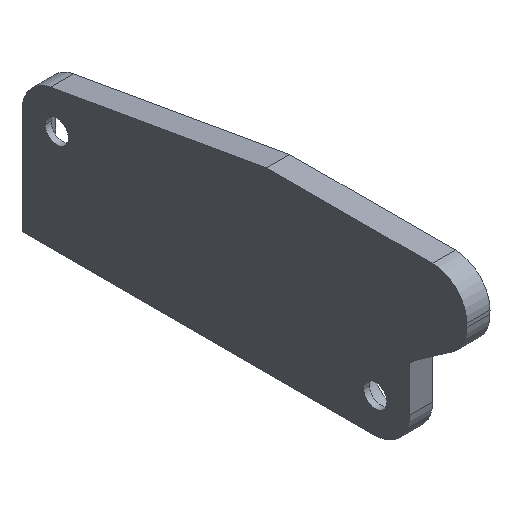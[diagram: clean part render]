
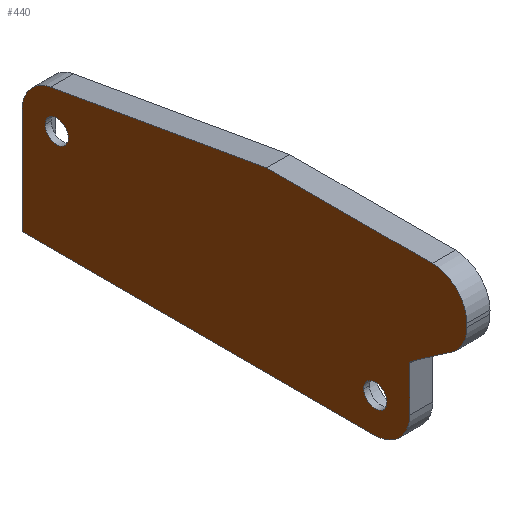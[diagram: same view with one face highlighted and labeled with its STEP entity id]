
A CAD part, isometric view. The second image highlights one B-rep face of the part: STEP entity #440.
In plain terms, the highlighted planar face has unit normal (-1, 0, 0).
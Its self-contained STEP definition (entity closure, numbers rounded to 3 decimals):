
#30 = EDGE_CURVE ( 'NONE', #661, #872, #615, .T. ) ;
#39 = DIRECTION ( 'NONE',  ( 0., -1., 0. ) ) ;
#47 = EDGE_CURVE ( 'NONE', #269, #873, #776, .T. ) ;
#53 = AXIS2_PLACEMENT_3D ( 'NONE', #504, #237, #691 ) ;
#67 = CARTESIAN_POINT ( 'NONE',  ( 0., 68., 33.2 ) ) ;
#74 = VECTOR ( 'NONE', #134, 1000. ) ;
#80 = AXIS2_PLACEMENT_3D ( 'NONE', #616, #90, #694 ) ;
#85 = ORIENTED_EDGE ( 'NONE', *, *, #746, .F. ) ;
#90 = DIRECTION ( 'NONE',  ( -1., 0., 0. ) ) ;
#91 = ORIENTED_EDGE ( 'NONE', *, *, #642, .F. ) ;
#105 = EDGE_CURVE ( 'NONE', #873, #627, #833, .T. ) ;
#112 = CARTESIAN_POINT ( 'NONE',  ( 0., 68., 10. ) ) ;
#113 = CARTESIAN_POINT ( 'NONE',  ( 0., 7., 16. ) ) ;
#121 = DIRECTION ( 'NONE',  ( 0., 1., 0. ) ) ;
#122 = DIRECTION ( 'NONE',  ( 1., 0., 0. ) ) ;
#134 = DIRECTION ( 'NONE',  ( 0., -1., 0. ) ) ;
#140 = CARTESIAN_POINT ( 'NONE',  ( 0., -2.8, 40.65 ) ) ;
#145 = CIRCLE ( 'NONE', #187, 6. ) ;
#162 = DIRECTION ( 'NONE',  ( 1., 0., 0. ) ) ;
#167 = VECTOR ( 'NONE', #121, 1000. ) ;
#177 = DIRECTION ( 'NONE',  ( 0., -1., 0. ) ) ;
#183 = DIRECTION ( 'NONE',  ( 0., 0., -1. ) ) ;
#187 = AXIS2_PLACEMENT_3D ( 'NONE', #707, #162, #177 ) ;
#191 = CIRCLE ( 'NONE', #309, 2. ) ;
#202 = CARTESIAN_POINT ( 'NONE',  ( 0., 5., 16. ) ) ;
#205 = CARTESIAN_POINT ( 'NONE',  ( 0., -6.241, 29.127 ) ) ;
#210 = CARTESIAN_POINT ( 'NONE',  ( 0., 64., 28. ) ) ;
#219 = ORIENTED_EDGE ( 'NONE', *, *, #591, .F. ) ;
#221 = VECTOR ( 'NONE', #750, 1000. ) ;
#224 = FACE_BOUND ( 'NONE', #288, .T. ) ;
#230 = VERTEX_POINT ( 'NONE', #478 ) ;
#231 = EDGE_CURVE ( 'NONE', #557, #846, #689, .T. ) ;
#237 = DIRECTION ( 'NONE',  ( 1., 0., 0. ) ) ;
#240 = CARTESIAN_POINT ( 'NONE',  ( 0., -8.8, 34.65 ) ) ;
#249 = EDGE_CURVE ( 'NONE', #562, #269, #544, .T. ) ;
#250 = DIRECTION ( 'NONE',  ( -1., 0., 0. ) ) ;
#252 = EDGE_CURVE ( 'NONE', #471, #562, #712, .T. ) ;
#253 = VECTOR ( 'NONE', #183, 1000. ) ;
#259 = VERTEX_POINT ( 'NONE', #210 ) ;
#262 = VERTEX_POINT ( 'NONE', #140 ) ;
#265 = VERTEX_POINT ( 'NONE', #618 ) ;
#266 = CARTESIAN_POINT ( 'NONE',  ( 0., -8.8, 34.041 ) ) ;
#269 = VERTEX_POINT ( 'NONE', #341 ) ;
#273 = DIRECTION ( 'NONE',  ( 1., 0., 0. ) ) ;
#278 = EDGE_CURVE ( 'NONE', #265, #259, #346, .T. ) ;
#281 = CARTESIAN_POINT ( 'NONE',  ( 0., 7., 16. ) ) ;
#288 = EDGE_LOOP ( 'NONE', ( #665, #812 ) ) ;
#301 = CARTESIAN_POINT ( 'NONE',  ( 0., 7.08, 16. ) ) ;
#303 = AXIS2_PLACEMENT_3D ( 'NONE', #664, #122, #594 ) ;
#305 = VECTOR ( 'NONE', #684, 1000. ) ;
#309 = AXIS2_PLACEMENT_3D ( 'NONE', #281, #630, #834 ) ;
#312 = DIRECTION ( 'NONE',  ( -1., 0., 0. ) ) ;
#314 = CARTESIAN_POINT ( 'NONE',  ( 0., 7.08, 10. ) ) ;
#316 = EDGE_CURVE ( 'NONE', #700, #548, #191, .T. ) ;
#323 = ORIENTED_EDGE ( 'NONE', *, *, #396, .F. ) ;
#324 = CARTESIAN_POINT ( 'NONE',  ( 0., 68., 40.65 ) ) ;
#326 = ORIENTED_EDGE ( 'NONE', *, *, #316, .F. ) ;
#328 = EDGE_LOOP ( 'NONE', ( #798, #608, #323, #336, #870, #426, #493, #91, #841, #460, #556, #85 ) ) ;
#335 = LINE ( 'NONE', #529, #454 ) ;
#336 = ORIENTED_EDGE ( 'NONE', *, *, #105, .F. ) ;
#341 = CARTESIAN_POINT ( 'NONE',  ( 0., 0.867, 24.149 ) ) ;
#342 = CIRCLE ( 'NONE', #883, 6. ) ;
#346 = CIRCLE ( 'NONE', #80, 2. ) ;
#388 = LINE ( 'NONE', #324, #74 ) ;
#389 = DIRECTION ( 'NONE',  ( 0., -1., 0. ) ) ;
#396 = EDGE_CURVE ( 'NONE', #627, #661, #342, .T. ) ;
#398 = DIRECTION ( 'NONE',  ( -1., 0., 0. ) ) ;
#411 = CARTESIAN_POINT ( 'NONE',  ( 0., 1.08, 10. ) ) ;
#413 = EDGE_CURVE ( 'NONE', #262, #869, #145, .T. ) ;
#425 = CARTESIAN_POINT ( 'NONE',  ( 0., -2.8, 34.041 ) ) ;
#426 = ORIENTED_EDGE ( 'NONE', *, *, #249, .F. ) ;
#431 = FACE_BOUND ( 'NONE', #734, .T. ) ;
#440 = ADVANCED_FACE ( 'NONE', ( #224, #431, #699 ), #799, .F. ) ;
#442 = CARTESIAN_POINT ( 'NONE',  ( 0., 1.08, 23.74 ) ) ;
#451 = CARTESIAN_POINT ( 'NONE',  ( 0., 62., 28. ) ) ;
#452 = EDGE_CURVE ( 'NONE', #872, #230, #335, .T. ) ;
#453 = AXIS2_PLACEMENT_3D ( 'NONE', #451, #250, #39 ) ;
#454 = VECTOR ( 'NONE', #463, 1000. ) ;
#455 = LINE ( 'NONE', #518, #253 ) ;
#459 = CARTESIAN_POINT ( 'NONE',  ( 0., 0.58, 23.74 ) ) ;
#460 = ORIENTED_EDGE ( 'NONE', *, *, #472, .F. ) ;
#463 = DIRECTION ( 'NONE',  ( 0., 0., 1. ) ) ;
#471 = VERTEX_POINT ( 'NONE', #266 ) ;
#472 = EDGE_CURVE ( 'NONE', #846, #262, #388, .T. ) ;
#474 = DIRECTION ( 'NONE',  ( 0., -1., 0. ) ) ;
#477 = CARTESIAN_POINT ( 'NONE',  ( 0., 68., 10. ) ) ;
#478 = CARTESIAN_POINT ( 'NONE',  ( 0., 68., 28.165 ) ) ;
#493 = ORIENTED_EDGE ( 'NONE', *, *, #252, .F. ) ;
#504 = CARTESIAN_POINT ( 'NONE',  ( 0., 62., 28.165 ) ) ;
#518 = CARTESIAN_POINT ( 'NONE',  ( 0., -8.8, 40.65 ) ) ;
#520 = CARTESIAN_POINT ( 'NONE',  ( 0., 1.08, 16. ) ) ;
#521 = CIRCLE ( 'NONE', #453, 2. ) ;
#529 = CARTESIAN_POINT ( 'NONE',  ( 0., 68., 40.65 ) ) ;
#544 = LINE ( 'NONE', #554, #604 ) ;
#548 = VERTEX_POINT ( 'NONE', #202 ) ;
#554 = CARTESIAN_POINT ( 'NONE',  ( 0., 1.08, 24. ) ) ;
#556 = ORIENTED_EDGE ( 'NONE', *, *, #231, .F. ) ;
#557 = VERTEX_POINT ( 'NONE', #609 ) ;
#562 = VERTEX_POINT ( 'NONE', #205 ) ;
#577 = EDGE_CURVE ( 'NONE', #259, #265, #521, .T. ) ;
#590 = DIRECTION ( 'NONE',  ( 0., -1., 0. ) ) ;
#591 = EDGE_CURVE ( 'NONE', #548, #700, #679, .T. ) ;
#594 = DIRECTION ( 'NONE',  ( 0., -1., 0. ) ) ;
#604 = VECTOR ( 'NONE', #813, 1000. ) ;
#608 = ORIENTED_EDGE ( 'NONE', *, *, #30, .F. ) ;
#609 = CARTESIAN_POINT ( 'NONE',  ( 0., 63.042, 34.074 ) ) ;
#615 = LINE ( 'NONE', #477, #167 ) ;
#616 = CARTESIAN_POINT ( 'NONE',  ( 0., 62., 28. ) ) ;
#618 = CARTESIAN_POINT ( 'NONE',  ( 0., 60., 28. ) ) ;
#621 = CARTESIAN_POINT ( 'NONE',  ( 0., 25.749, 40.65 ) ) ;
#627 = VERTEX_POINT ( 'NONE', #520 ) ;
#630 = DIRECTION ( 'NONE',  ( -1., 0., 0. ) ) ;
#642 = EDGE_CURVE ( 'NONE', #869, #471, #455, .T. ) ;
#661 = VERTEX_POINT ( 'NONE', #314 ) ;
#664 = CARTESIAN_POINT ( 'NONE',  ( 0., 33.1, 23. ) ) ;
#665 = ORIENTED_EDGE ( 'NONE', *, *, #278, .F. ) ;
#679 = CIRCLE ( 'NONE', #863, 2. ) ;
#684 = DIRECTION ( 'NONE',  ( 0., 0., -1. ) ) ;
#689 = LINE ( 'NONE', #67, #221 ) ;
#691 = DIRECTION ( 'NONE',  ( 0., -1., 0. ) ) ;
#694 = DIRECTION ( 'NONE',  ( 0., -1., 0. ) ) ;
#699 = FACE_OUTER_BOUND ( 'NONE', #328, .T. ) ;
#700 = VERTEX_POINT ( 'NONE', #857 ) ;
#703 = DIRECTION ( 'NONE',  ( 1., 0., 0. ) ) ;
#707 = CARTESIAN_POINT ( 'NONE',  ( 0., -2.8, 34.65 ) ) ;
#712 = CIRCLE ( 'NONE', #760, 6. ) ;
#734 = EDGE_LOOP ( 'NONE', ( #219, #326 ) ) ;
#746 = EDGE_CURVE ( 'NONE', #230, #557, #747, .T. ) ;
#747 = CIRCLE ( 'NONE', #53, 6. ) ;
#750 = DIRECTION ( 'NONE',  ( 0., -0.985, 0.174 ) ) ;
#760 = AXIS2_PLACEMENT_3D ( 'NONE', #425, #273, #474 ) ;
#776 = CIRCLE ( 'NONE', #847, 0.5 ) ;
#798 = ORIENTED_EDGE ( 'NONE', *, *, #452, .F. ) ;
#799 = PLANE ( 'NONE',  #303 ) ;
#812 = ORIENTED_EDGE ( 'NONE', *, *, #577, .F. ) ;
#813 = DIRECTION ( 'NONE',  ( 0., 0.819, -0.574 ) ) ;
#833 = LINE ( 'NONE', #411, #305 ) ;
#834 = DIRECTION ( 'NONE',  ( 0., -1., 0. ) ) ;
#838 = DIRECTION ( 'NONE',  ( 0., -1., 0. ) ) ;
#841 = ORIENTED_EDGE ( 'NONE', *, *, #413, .F. ) ;
#846 = VERTEX_POINT ( 'NONE', #621 ) ;
#847 = AXIS2_PLACEMENT_3D ( 'NONE', #459, #398, #389 ) ;
#857 = CARTESIAN_POINT ( 'NONE',  ( 0., 9., 16. ) ) ;
#863 = AXIS2_PLACEMENT_3D ( 'NONE', #113, #312, #590 ) ;
#869 = VERTEX_POINT ( 'NONE', #240 ) ;
#870 = ORIENTED_EDGE ( 'NONE', *, *, #47, .F. ) ;
#872 = VERTEX_POINT ( 'NONE', #112 ) ;
#873 = VERTEX_POINT ( 'NONE', #442 ) ;
#883 = AXIS2_PLACEMENT_3D ( 'NONE', #301, #703, #838 ) ;
